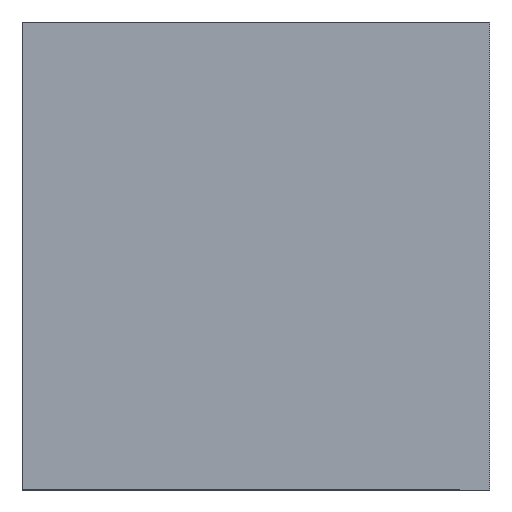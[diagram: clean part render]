
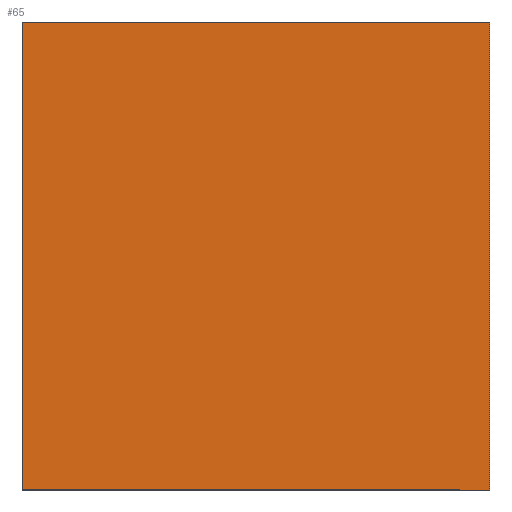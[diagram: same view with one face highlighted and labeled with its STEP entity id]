
A CAD part, front view. The second image highlights one B-rep face of the part: STEP entity #65.
In plain terms, the highlighted planar face has unit normal (0, -1, 0).
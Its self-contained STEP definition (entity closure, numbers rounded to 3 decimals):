
#65 = ADVANCED_FACE( '', ( #132 ), #133, .F. );
#132 = FACE_OUTER_BOUND( '', #204, .T. );
#133 = PLANE( '', #205 );
#204 = EDGE_LOOP( '', ( #264, #265, #266, #267 ) );
#205 = AXIS2_PLACEMENT_3D( '', #268, #269, #270 );
#264 = ORIENTED_EDGE( '', *, *, #413, .F. );
#265 = ORIENTED_EDGE( '', *, *, #414, .F. );
#266 = ORIENTED_EDGE( '', *, *, #415, .F. );
#267 = ORIENTED_EDGE( '', *, *, #416, .F. );
#268 = CARTESIAN_POINT( '', ( 0., -25., 0. ) );
#269 = DIRECTION( '', ( 0., 1., 0. ) );
#270 = DIRECTION( '', ( 0., 0., 1. ) );
#413 = EDGE_CURVE( '', #469, #470, #471, .T. );
#414 = EDGE_CURVE( '', #472, #469, #473, .T. );
#415 = EDGE_CURVE( '', #474, #472, #475, .T. );
#416 = EDGE_CURVE( '', #470, #474, #476, .T. );
#469 = VERTEX_POINT( '', #551 );
#470 = VERTEX_POINT( '', #552 );
#471 = LINE( '', #553, #554 );
#472 = VERTEX_POINT( '', #555 );
#473 = LINE( '', #556, #557 );
#474 = VERTEX_POINT( '', #558 );
#475 = LINE( '', #559, #560 );
#476 = LINE( '', #561, #562 );
#551 = CARTESIAN_POINT( '', ( 6., -25., -6. ) );
#552 = CARTESIAN_POINT( '', ( -6., -25., -6. ) );
#553 = CARTESIAN_POINT( '', ( 6., -25., -6. ) );
#554 = VECTOR( '', #668, 1000. );
#555 = CARTESIAN_POINT( '', ( 6., -25., 6. ) );
#556 = CARTESIAN_POINT( '', ( 6., -25., 6. ) );
#557 = VECTOR( '', #669, 1000. );
#558 = CARTESIAN_POINT( '', ( -6., -25., 6. ) );
#559 = CARTESIAN_POINT( '', ( -6., -25., 6. ) );
#560 = VECTOR( '', #670, 1000. );
#561 = CARTESIAN_POINT( '', ( -6., -25., -6. ) );
#562 = VECTOR( '', #671, 1000. );
#668 = DIRECTION( '', ( -1., 0., 0. ) );
#669 = DIRECTION( '', ( 0., 0., -1. ) );
#670 = DIRECTION( '', ( 1., 0., 0. ) );
#671 = DIRECTION( '', ( 0., 0., 1. ) );
